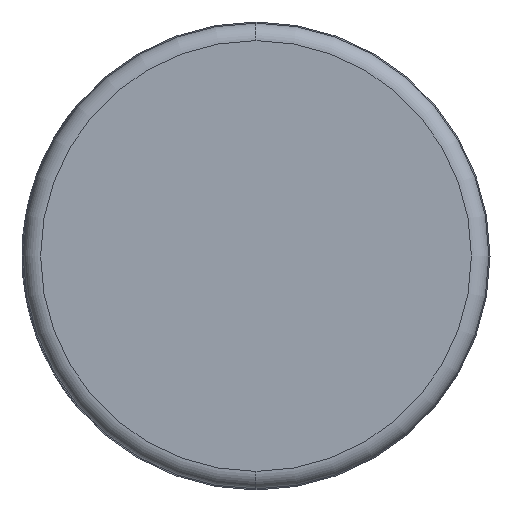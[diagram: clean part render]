
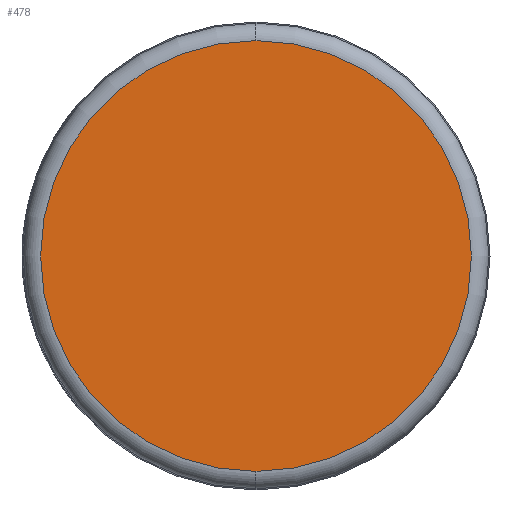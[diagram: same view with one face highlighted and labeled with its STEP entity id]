
A CAD part, left-side view. The second image highlights one B-rep face of the part: STEP entity #478.
In plain terms, the highlighted planar face has unit normal (-1, 0, 0).
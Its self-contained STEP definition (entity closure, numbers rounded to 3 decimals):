
#1 = ORIENTED_EDGE ( 'NONE', *, *, #753, .T. ) ;
#14 = CARTESIAN_POINT ( 'NONE',  ( 0., 0., 0. ) ) ;
#41 = VERTEX_POINT ( 'NONE', #245 ) ;
#84 = DIRECTION ( 'NONE',  ( 0., 0., -1. ) ) ;
#134 = CIRCLE ( 'NONE', #615, 36.814 ) ;
#150 = DIRECTION ( 'NONE',  ( 0., 0., -1. ) ) ;
#203 = EDGE_LOOP ( 'NONE', ( #1, #651 ) ) ;
#207 = AXIS2_PLACEMENT_3D ( 'NONE', #14, #447, #84 ) ;
#210 = EDGE_CURVE ( 'NONE', #41, #496, #571, .T. ) ;
#221 = PLANE ( 'NONE',  #687 ) ;
#245 = CARTESIAN_POINT ( 'NONE',  ( 0., 0., 36.814 ) ) ;
#263 = CARTESIAN_POINT ( 'NONE',  ( 0., 0., -36.814 ) ) ;
#334 = CARTESIAN_POINT ( 'NONE',  ( 0., 0., 0. ) ) ;
#400 = DIRECTION ( 'NONE',  ( 0., 0., -1. ) ) ;
#447 = DIRECTION ( 'NONE',  ( -1., 0., 0. ) ) ;
#478 = ADVANCED_FACE ( 'NONE', ( #697 ), #221, .F. ) ;
#496 = VERTEX_POINT ( 'NONE', #263 ) ;
#564 = DIRECTION ( 'NONE',  ( 1., 0., 0. ) ) ;
#571 = CIRCLE ( 'NONE', #207, 36.814 ) ;
#615 = AXIS2_PLACEMENT_3D ( 'NONE', #334, #725, #400 ) ;
#651 = ORIENTED_EDGE ( 'NONE', *, *, #210, .T. ) ;
#687 = AXIS2_PLACEMENT_3D ( 'NONE', #710, #564, #150 ) ;
#697 = FACE_OUTER_BOUND ( 'NONE', #203, .T. ) ;
#710 = CARTESIAN_POINT ( 'NONE',  ( 0., 0., 0. ) ) ;
#725 = DIRECTION ( 'NONE',  ( -1., 0., 0. ) ) ;
#753 = EDGE_CURVE ( 'NONE', #496, #41, #134, .T. ) ;
